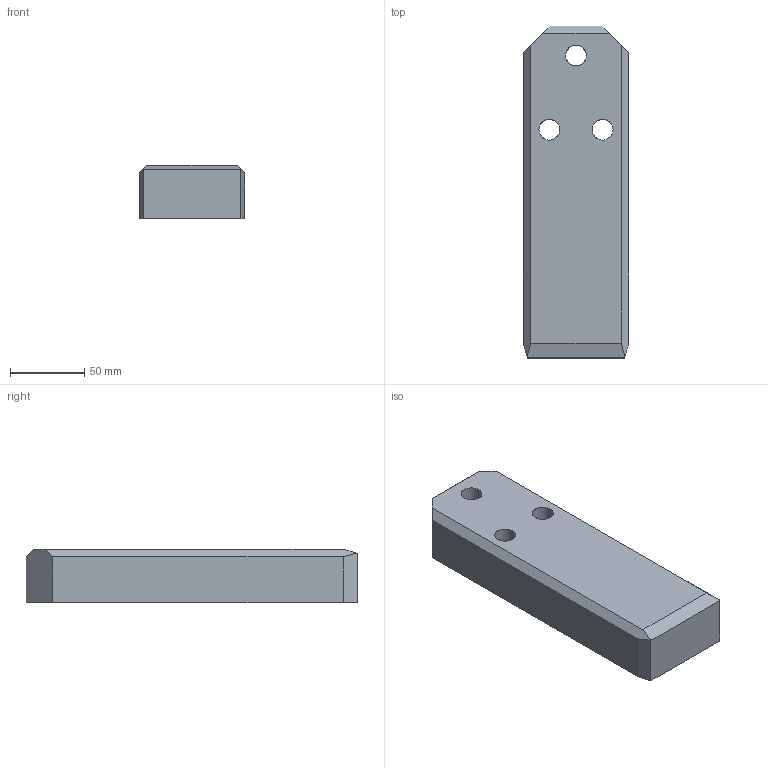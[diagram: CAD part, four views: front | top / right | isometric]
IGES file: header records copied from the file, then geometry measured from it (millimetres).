
Start section: START RECORD GO HERE.
Global section: file name: A927-71X224X36.igs; native system: DASSAULT SYSTEMES CATIA V5 R20 - www.3ds.com; preprocessor: CATIA Version 5 Release 20 ; author: Utente; organization: NB04-ASUS; date: 20200408.202627; units: millimetre
Bounding box: 71 x 224 x 36 mm (x, y, z)
Surface area: 54434.9 mm2 (no closed solid volume)
Topology: 0 solids, 0 shells, 35 faces, 168 edges, 168 vertices
Faces by surface type: revolution 18, extrusion 17
